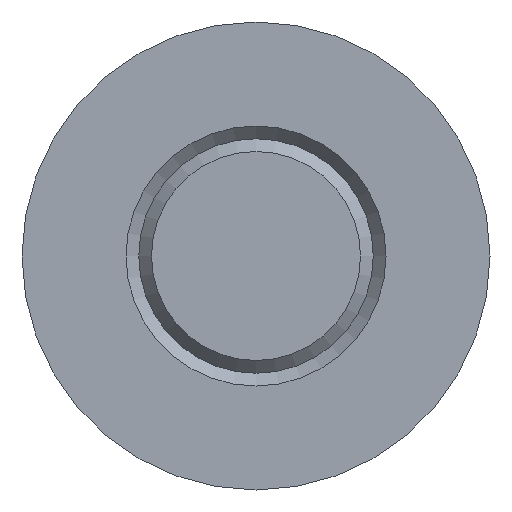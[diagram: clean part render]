
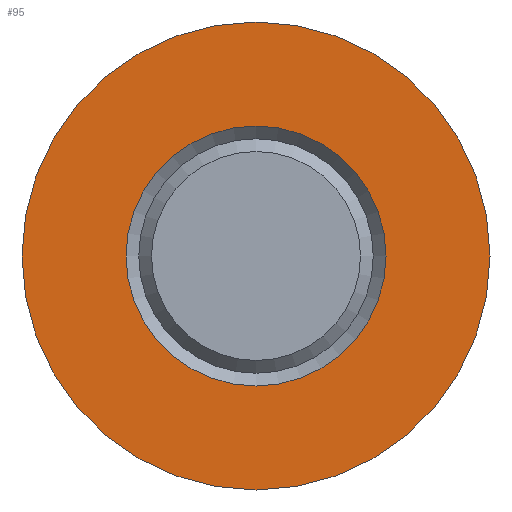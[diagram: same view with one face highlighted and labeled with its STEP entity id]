
A CAD part, front view. The second image highlights one B-rep face of the part: STEP entity #95.
In plain terms, the highlighted planar face has unit normal (0, -1, 0).
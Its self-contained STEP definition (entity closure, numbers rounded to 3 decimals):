
#95 = ADVANCED_FACE( '', ( #150, #151 ), #152, .F. );
#150 = FACE_BOUND( '', #208, .T. );
#151 = FACE_OUTER_BOUND( '', #209, .T. );
#152 = PLANE( '', #210 );
#208 = EDGE_LOOP( '', ( #334 ) );
#209 = EDGE_LOOP( '', ( #335 ) );
#210 = AXIS2_PLACEMENT_3D( '', #336, #337, #338 );
#334 = ORIENTED_EDGE( '', *, *, #346, .F. );
#335 = ORIENTED_EDGE( '', *, *, #375, .T. );
#336 = CARTESIAN_POINT( '', ( 4.5, 0., 0. ) );
#337 = DIRECTION( '', ( 0., 1., 0. ) );
#338 = DIRECTION( '', ( 0., 0., 1. ) );
#346 = EDGE_CURVE( '', #380, #380, #381, .T. );
#375 = EDGE_CURVE( '', #432, #432, #433, .T. );
#380 = VERTEX_POINT( '', #438 );
#381 = CIRCLE( '', #439, 2.5 );
#432 = VERTEX_POINT( '', #508 );
#433 = CIRCLE( '', #509, 4.5 );
#438 = CARTESIAN_POINT( '', ( 0., 0., -2.5 ) );
#439 = AXIS2_PLACEMENT_3D( '', #516, #517, #518 );
#508 = CARTESIAN_POINT( '', ( 0., 0., -4.5 ) );
#509 = AXIS2_PLACEMENT_3D( '', #567, #568, #569 );
#516 = CARTESIAN_POINT( '', ( 0., 0., 0. ) );
#517 = DIRECTION( '', ( 0., -1., 0. ) );
#518 = DIRECTION( '', ( 0., 0., -1. ) );
#567 = CARTESIAN_POINT( '', ( 0., 0., 0. ) );
#568 = DIRECTION( '', ( 0., -1., 0. ) );
#569 = DIRECTION( '', ( 0., 0., -1. ) );
